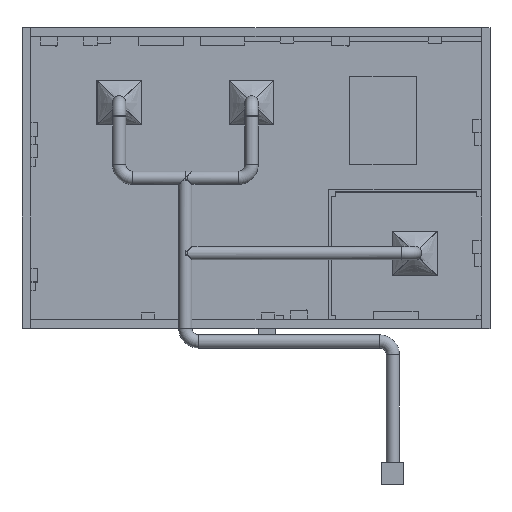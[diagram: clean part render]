
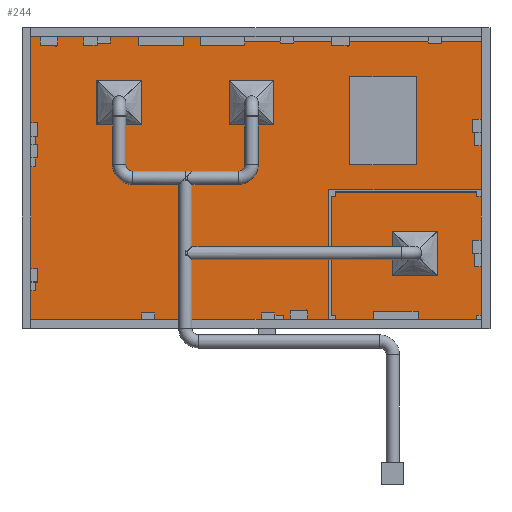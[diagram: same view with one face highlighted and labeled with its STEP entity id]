
A CAD part, top view. The second image highlights one B-rep face of the part: STEP entity #244.
In plain terms, the highlighted planar face has unit normal (0, 0, 1).
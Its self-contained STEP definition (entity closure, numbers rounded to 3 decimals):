
#74=CARTESIAN_POINT('Vertex',(5100.,3205.,100.)) ;
#88=CARTESIAN_POINT('Vertex',(-5100.,3205.,100.)) ;
#91=CARTESIAN_POINT('Line Origine',(0.,3205.,100.)) ;
#119=CARTESIAN_POINT('Vertex',(-5100.,-3205.,100.)) ;
#122=CARTESIAN_POINT('Line Origine',(-5100.,0.,100.)) ;
#150=CARTESIAN_POINT('Vertex',(5100.,-3205.,100.)) ;
#153=CARTESIAN_POINT('Line Origine',(0.,-3205.,100.)) ;
#175=CARTESIAN_POINT('Line Origine',(5100.,0.,100.)) ;
#199=CARTESIAN_POINT('Axis2P3D Location',(0.,0.,100.)) ;
#210=CARTESIAN_POINT('Line Origine',(3627.329,1301.422,100.)) ;
#214=CARTESIAN_POINT('Vertex',(3627.329,301.422,100.)) ;
#216=CARTESIAN_POINT('Vertex',(3627.329,2301.422,100.)) ;
#219=CARTESIAN_POINT('Line Origine',(2877.329,301.422,100.)) ;
#223=CARTESIAN_POINT('Vertex',(2127.329,301.422,100.)) ;
#226=CARTESIAN_POINT('Line Origine',(2127.329,1301.422,100.)) ;
#230=CARTESIAN_POINT('Vertex',(2127.329,2301.422,100.)) ;
#233=CARTESIAN_POINT('Line Origine',(2877.329,2301.422,100.)) ;
#92=DIRECTION('Vector Direction',(1.,0.,0.)) ;
#123=DIRECTION('Vector Direction',(0.,1.,0.)) ;
#154=DIRECTION('Vector Direction',(-1.,0.,0.)) ;
#176=DIRECTION('Vector Direction',(0.,-1.,0.)) ;
#200=DIRECTION('Axis2P3D Direction',(0.,0.,1.)) ;
#201=DIRECTION('Axis2P3D XDirection',(1.,0.,0.)) ;
#211=DIRECTION('Vector Direction',(0.,1.,0.)) ;
#220=DIRECTION('Vector Direction',(-1.,0.,0.)) ;
#227=DIRECTION('Vector Direction',(0.,-1.,0.)) ;
#234=DIRECTION('Vector Direction',(1.,0.,0.)) ;
#202=AXIS2_PLACEMENT_3D('Plane Axis2P3D',#199,#200,#201) ;
#205=ORIENTED_EDGE('',*,*,#95,.T.) ;
#206=ORIENTED_EDGE('',*,*,#126,.T.) ;
#207=ORIENTED_EDGE('',*,*,#157,.T.) ;
#208=ORIENTED_EDGE('',*,*,#179,.T.) ;
#239=ORIENTED_EDGE('',*,*,#218,.F.) ;
#240=ORIENTED_EDGE('',*,*,#225,.F.) ;
#241=ORIENTED_EDGE('',*,*,#232,.F.) ;
#242=ORIENTED_EDGE('',*,*,#237,.F.) ;
#243=FACE_BOUND('',#238,.T.) ;
#93=VECTOR('Line Direction',#92,1.) ;
#124=VECTOR('Line Direction',#123,1.) ;
#155=VECTOR('Line Direction',#154,1.) ;
#177=VECTOR('Line Direction',#176,1.) ;
#212=VECTOR('Line Direction',#211,1.) ;
#221=VECTOR('Line Direction',#220,1.) ;
#228=VECTOR('Line Direction',#227,1.) ;
#235=VECTOR('Line Direction',#234,1.) ;
#244=ADVANCED_FACE('Sol',(#209,#243),#203,.T.) ;
#95=EDGE_CURVE('',#75,#89,#94,.F.) ;
#126=EDGE_CURVE('',#89,#120,#125,.F.) ;
#157=EDGE_CURVE('',#120,#151,#156,.F.) ;
#179=EDGE_CURVE('',#151,#75,#178,.F.) ;
#218=EDGE_CURVE('',#215,#217,#213,.T.) ;
#225=EDGE_CURVE('',#224,#215,#222,.F.) ;
#232=EDGE_CURVE('',#231,#224,#229,.T.) ;
#237=EDGE_CURVE('',#217,#231,#236,.F.) ;
#204=EDGE_LOOP('',(#205,#206,#207,#208)) ;
#238=EDGE_LOOP('',(#239,#240,#241,#242)) ;
#209=FACE_OUTER_BOUND('',#204,.T.) ;
#94=LINE('Line',#91,#93) ;
#125=LINE('Line',#122,#124) ;
#156=LINE('Line',#153,#155) ;
#178=LINE('Line',#175,#177) ;
#213=LINE('Line',#210,#212) ;
#222=LINE('Line',#219,#221) ;
#229=LINE('Line',#226,#228) ;
#236=LINE('Line',#233,#235) ;
#203=PLANE('',#202) ;
#75=VERTEX_POINT('',#74) ;
#89=VERTEX_POINT('',#88) ;
#120=VERTEX_POINT('',#119) ;
#151=VERTEX_POINT('',#150) ;
#215=VERTEX_POINT('',#214) ;
#217=VERTEX_POINT('',#216) ;
#224=VERTEX_POINT('',#223) ;
#231=VERTEX_POINT('',#230) ;
